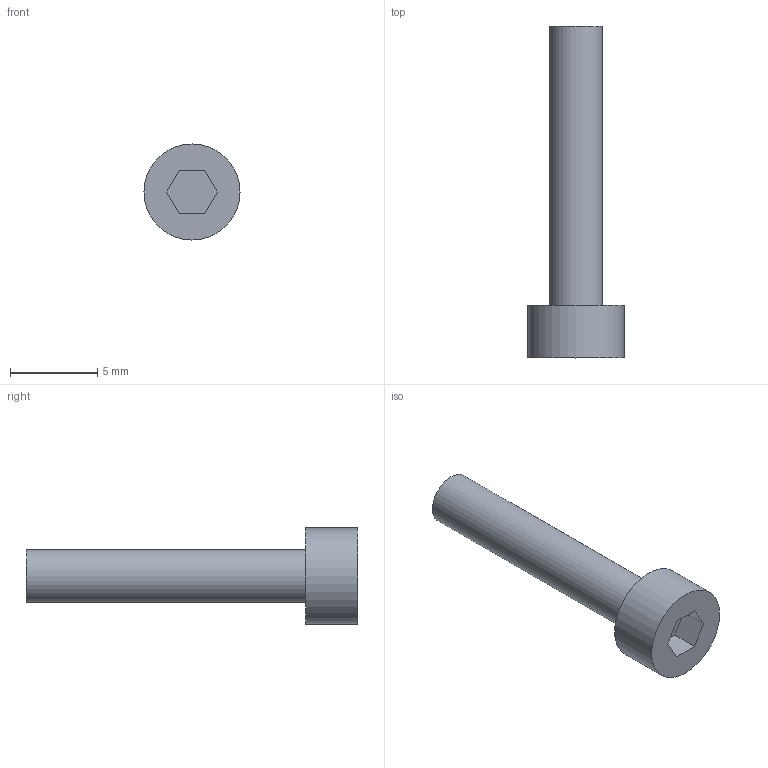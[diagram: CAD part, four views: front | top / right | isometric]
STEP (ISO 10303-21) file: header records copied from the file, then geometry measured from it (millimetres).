
FILE_DESCRIPTION(('Open CASCADE Model'),'2;1');
FILE_NAME('Open CASCADE Shape Model','2026-10-30T11:48:04',('Author'),( 'Open CASCADE'),'Open CASCADE STEP processor 7.9','Open CASCADE 7.9' ,'Unknown');
FILE_SCHEMA(('AUTOMOTIVE_DESIGN { 1 0 10303 214 1 1 1 1 }'));
Length unit declared in the file: millimetre
Products named in the file (1): Open CASCADE STEP translator 7.9 7
Bounding box: 5.5 x 19 x 5.5 mm (x, y, z)
Volume: 175.7 mm3; surface area: 264 mm2
Topology: 1 solids, 1 shells, 12 faces, 24 edges, 16 vertices
Faces by surface type: plane 10, cylinder 2
Full cylindrical faces by diameter (mm): 3 x1, 5.5 x1
Entity records: 622 total; most frequent: CARTESIAN_POINT 113, DIRECTION 90, LINE 52, VECTOR 52, ORIENTED_EDGE 48, PCURVE 48, DEFINITIONAL_REPRESENTATION 48, EDGE_CURVE 24
